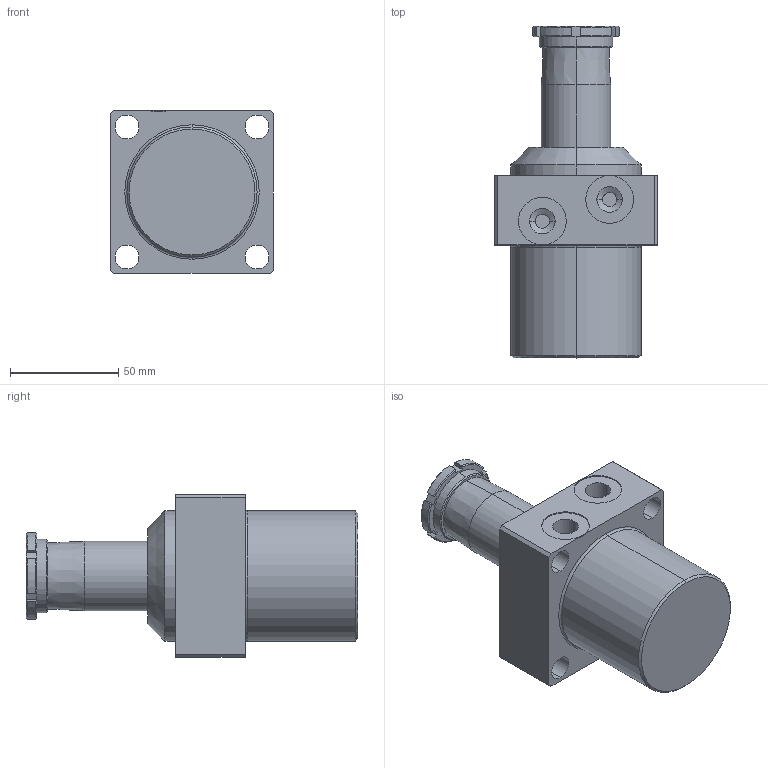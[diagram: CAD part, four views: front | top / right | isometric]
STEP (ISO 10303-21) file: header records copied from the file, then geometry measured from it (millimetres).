
FILE_DESCRIPTION (( 'STEP AP203' ), '1' );
FILE_NAME ('4110 426 429.STEP', '2016-01-28T11:36:09', ( '' ), ( '' ), 'SwSTEP 2.0', 'SolidWorks 2015', '' );
FILE_SCHEMA (( 'CONFIG_CONTROL_DESIGN' ));
Length unit declared in the file: millimetre
Products named in the file (1): 4110 426 429
Bounding box: 75 x 153 x 75 mm (x, y, z)
Volume: 387359.3 mm3; surface area: 44758.7 mm2
Topology: 1 solids, 2 shells, 112 faces, 278 edges, 176 vertices
Faces by surface type: cylinder 42, plane 34, cone 30, torus 6
Entity records: 3483 total; most frequent: CARTESIAN_POINT 663, DIRECTION 602, ORIENTED_EDGE 556, EDGE_CURVE 278, AXIS2_PLACEMENT_3D 235, VERTEX_POINT 176, VECTOR 132, LINE 132
